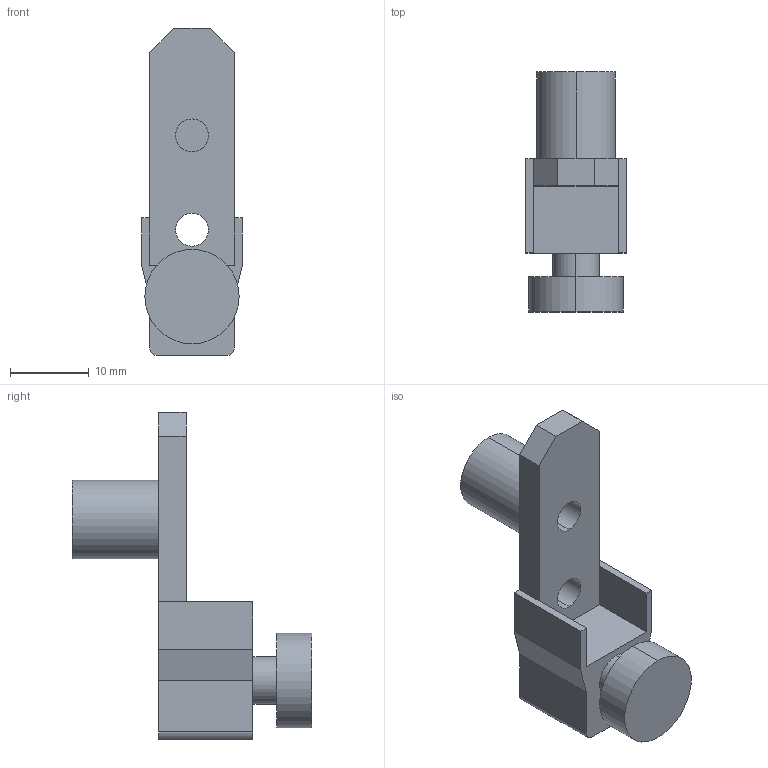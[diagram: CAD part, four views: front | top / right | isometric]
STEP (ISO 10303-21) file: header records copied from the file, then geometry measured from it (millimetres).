
FILE_DESCRIPTION (( 'STEP AP214' ), '1' );
FILE_NAME ('_Relingshalter_Dübel_NOVA-Pro.step', '2010-08-27T08:37:10', ( 'grass' ), ( '' ), 'SwSTEP 2.0', 'SolidWorks 2009', '' );
FILE_SCHEMA (( 'AUTOMOTIVE_DESIGN' ));
Length unit declared in the file: millimetre
Products named in the file (1): _Relingshalter_Dübel_NOVA-Pro
Bounding box: 12.8 x 30.5 x 41.6 mm (x, y, z)
Volume: 4143.2 mm3; surface area: 2671.2 mm2
Topology: 1 solids, 1 shells, 36 faces, 88 edges, 58 vertices
Faces by surface type: plane 24, cylinder 12
Entity records: 1098 total; most frequent: DIRECTION 186, CARTESIAN_POINT 183, ORIENTED_EDGE 176, EDGE_CURVE 88, LINE 64, VECTOR 64, AXIS2_PLACEMENT_3D 61, VERTEX_POINT 58
